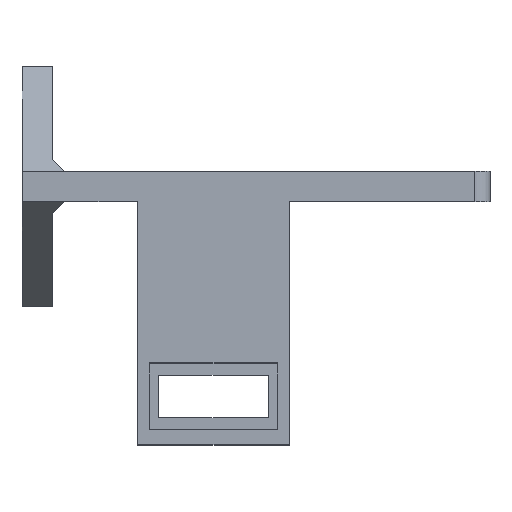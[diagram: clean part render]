
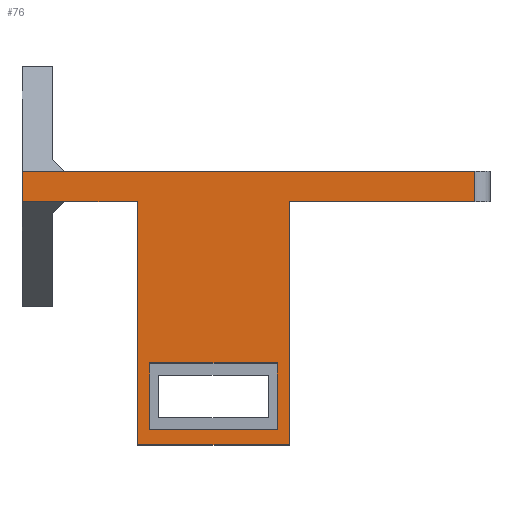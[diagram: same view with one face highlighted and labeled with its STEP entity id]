
A CAD part, top view. The second image highlights one B-rep face of the part: STEP entity #76.
In plain terms, the highlighted planar face has unit normal (0, 0, 1).
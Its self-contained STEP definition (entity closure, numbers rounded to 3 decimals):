
#25 = EDGE_CURVE ( 'NONE', #2315, #881, #2194, .T. ) ;
#43 = ORIENTED_EDGE ( 'NONE', *, *, #2245, .T. ) ;
#47 = VERTEX_POINT ( 'NONE', #2394 ) ;
#76 = ADVANCED_FACE ( 'NONE', ( #527, #2157 ), #538, .F. ) ;
#111 = VERTEX_POINT ( 'NONE', #2207 ) ;
#127 = ORIENTED_EDGE ( 'NONE', *, *, #287, .T. ) ;
#161 = VERTEX_POINT ( 'NONE', #2449 ) ;
#177 = CARTESIAN_POINT ( 'NONE',  ( 12., -37.5, 15. ) ) ;
#190 = DIRECTION ( 'NONE',  ( 1., 0., 0. ) ) ;
#192 = EDGE_CURVE ( 'NONE', #2315, #578, #2003, .T. ) ;
#198 = ORIENTED_EDGE ( 'NONE', *, *, #784, .F. ) ;
#220 = VERTEX_POINT ( 'NONE', #1641 ) ;
#234 = DIRECTION ( 'NONE',  ( -1., 0., 0. ) ) ;
#257 = DIRECTION ( 'NONE',  ( -1., 0., 0. ) ) ;
#258 = LINE ( 'NONE', #1455, #857 ) ;
#276 = VECTOR ( 'NONE', #1689, 1000. ) ;
#279 = DIRECTION ( 'NONE',  ( 0., -1., 0. ) ) ;
#287 = EDGE_CURVE ( 'NONE', #47, #111, #258, .T. ) ;
#309 = LINE ( 'NONE', #2526, #2431 ) ;
#328 = VERTEX_POINT ( 'NONE', #2544 ) ;
#339 = CARTESIAN_POINT ( 'NONE',  ( 65.481, 5., 15. ) ) ;
#345 = ORIENTED_EDGE ( 'NONE', *, *, #1930, .F. ) ;
#355 = ORIENTED_EDGE ( 'NONE', *, *, #1243, .T. ) ;
#386 = EDGE_CURVE ( 'NONE', #2414, #161, #1301, .T. ) ;
#395 = AXIS2_PLACEMENT_3D ( 'NONE', #1949, #2168, #1147 ) ;
#397 = ORIENTED_EDGE ( 'NONE', *, *, #2210, .T. ) ;
#435 = VECTOR ( 'NONE', #279, 1000. ) ;
#472 = VERTEX_POINT ( 'NONE', #1724 ) ;
#480 = CARTESIAN_POINT ( 'NONE',  ( -2., 0., 15. ) ) ;
#527 = FACE_OUTER_BOUND ( 'NONE', #2333, .T. ) ;
#538 = PLANE ( 'NONE',  #395 ) ;
#551 = VERTEX_POINT ( 'NONE', #1620 ) ;
#558 = DIRECTION ( 'NONE',  ( 0., 1., 0. ) ) ;
#578 = VERTEX_POINT ( 'NONE', #2035 ) ;
#592 = CARTESIAN_POINT ( 'NONE',  ( 65.481, 0., 15. ) ) ;
#601 = CARTESIAN_POINT ( 'NONE',  ( 65.481, 5., 15. ) ) ;
#623 = CARTESIAN_POINT ( 'NONE',  ( 10., 0., 15. ) ) ;
#648 = LINE ( 'NONE', #1874, #1821 ) ;
#653 = ORIENTED_EDGE ( 'NONE', *, *, #2225, .T. ) ;
#732 = VECTOR ( 'NONE', #234, 1000. ) ;
#784 = EDGE_CURVE ( 'NONE', #328, #551, #2334, .T. ) ;
#788 = ORIENTED_EDGE ( 'NONE', *, *, #1060, .T. ) ;
#800 = VERTEX_POINT ( 'NONE', #2161 ) ;
#807 = LINE ( 'NONE', #2266, #2557 ) ;
#857 = VECTOR ( 'NONE', #1665, 1000. ) ;
#881 = VERTEX_POINT ( 'NONE', #592 ) ;
#895 = ORIENTED_EDGE ( 'NONE', *, *, #2374, .F. ) ;
#930 = VECTOR ( 'NONE', #558, 1000. ) ;
#1022 = LINE ( 'NONE', #623, #1717 ) ;
#1058 = DIRECTION ( 'NONE',  ( -1., 0., 0. ) ) ;
#1060 = EDGE_CURVE ( 'NONE', #472, #47, #1989, .T. ) ;
#1073 = VECTOR ( 'NONE', #1122, 1000. ) ;
#1122 = DIRECTION ( 'NONE',  ( 0., -1., 0. ) ) ;
#1147 = DIRECTION ( 'NONE',  ( 0., -1., 0. ) ) ;
#1171 = CARTESIAN_POINT ( 'NONE',  ( 10., -40., 15. ) ) ;
#1243 = EDGE_CURVE ( 'NONE', #220, #1391, #1022, .T. ) ;
#1261 = LINE ( 'NONE', #2080, #2042 ) ;
#1275 = LINE ( 'NONE', #480, #276 ) ;
#1301 = LINE ( 'NONE', #2102, #435 ) ;
#1339 = EDGE_LOOP ( 'NONE', ( #788, #127, #43, #397 ) ) ;
#1354 = CARTESIAN_POINT ( 'NONE',  ( 10., -40., 15. ) ) ;
#1378 = EDGE_CURVE ( 'NONE', #800, #161, #1275, .T. ) ;
#1381 = VERTEX_POINT ( 'NONE', #2307 ) ;
#1391 = VERTEX_POINT ( 'NONE', #1354 ) ;
#1455 = CARTESIAN_POINT ( 'NONE',  ( 33., -26.5, 15. ) ) ;
#1516 = ORIENTED_EDGE ( 'NONE', *, *, #1378, .F. ) ;
#1560 = ORIENTED_EDGE ( 'NONE', *, *, #386, .T. ) ;
#1569 = CARTESIAN_POINT ( 'NONE',  ( 12., -26.5, 15. ) ) ;
#1586 = VECTOR ( 'NONE', #1784, 1000. ) ;
#1620 = CARTESIAN_POINT ( 'NONE',  ( 35., -40., 15. ) ) ;
#1621 = DIRECTION ( 'NONE',  ( -1., 0., 0. ) ) ;
#1629 = ORIENTED_EDGE ( 'NONE', *, *, #192, .T. ) ;
#1641 = CARTESIAN_POINT ( 'NONE',  ( 10., 0., 15. ) ) ;
#1665 = DIRECTION ( 'NONE',  ( 0., -1., 0. ) ) ;
#1689 = DIRECTION ( 'NONE',  ( -1., 0., 0. ) ) ;
#1717 = VECTOR ( 'NONE', #1835, 1000. ) ;
#1724 = CARTESIAN_POINT ( 'NONE',  ( 12., -26.5, 15. ) ) ;
#1729 = DIRECTION ( 'NONE',  ( 1., 0., 0. ) ) ;
#1784 = DIRECTION ( 'NONE',  ( 1., 0., 0. ) ) ;
#1808 = LINE ( 'NONE', #177, #930 ) ;
#1819 = CARTESIAN_POINT ( 'NONE',  ( 65.481, 5., 15. ) ) ;
#1821 = VECTOR ( 'NONE', #1058, 1000. ) ;
#1835 = DIRECTION ( 'NONE',  ( 0., -1., 0. ) ) ;
#1874 = CARTESIAN_POINT ( 'NONE',  ( 10., 0., 15. ) ) ;
#1930 = EDGE_CURVE ( 'NONE', #881, #328, #1261, .T. ) ;
#1941 = DIRECTION ( 'NONE',  ( 0., -1., 0. ) ) ;
#1949 = CARTESIAN_POINT ( 'NONE',  ( 67.981, 0., 15. ) ) ;
#1989 = LINE ( 'NONE', #1569, #1586 ) ;
#2000 = VECTOR ( 'NONE', #190, 1000. ) ;
#2003 = LINE ( 'NONE', #601, #732 ) ;
#2011 = EDGE_CURVE ( 'NONE', #2414, #578, #309, .T. ) ;
#2035 = CARTESIAN_POINT ( 'NONE',  ( -2., 5., 15. ) ) ;
#2042 = VECTOR ( 'NONE', #257, 1000. ) ;
#2080 = CARTESIAN_POINT ( 'NONE',  ( 65.481, 0., 15. ) ) ;
#2090 = CARTESIAN_POINT ( 'NONE',  ( -9., 5., 15. ) ) ;
#2102 = CARTESIAN_POINT ( 'NONE',  ( -9., 5., 15. ) ) ;
#2136 = CARTESIAN_POINT ( 'NONE',  ( 35., -22.08, 15. ) ) ;
#2147 = VECTOR ( 'NONE', #1941, 1000. ) ;
#2157 = FACE_BOUND ( 'NONE', #1339, .T. ) ;
#2161 = CARTESIAN_POINT ( 'NONE',  ( -2., 0., 15. ) ) ;
#2168 = DIRECTION ( 'NONE',  ( 0., 0., -1. ) ) ;
#2191 = LINE ( 'NONE', #1171, #2000 ) ;
#2194 = LINE ( 'NONE', #339, #1073 ) ;
#2207 = CARTESIAN_POINT ( 'NONE',  ( 33., -37.5, 15. ) ) ;
#2210 = EDGE_CURVE ( 'NONE', #1381, #472, #1808, .T. ) ;
#2214 = ORIENTED_EDGE ( 'NONE', *, *, #2011, .F. ) ;
#2225 = EDGE_CURVE ( 'NONE', #1391, #551, #2191, .T. ) ;
#2245 = EDGE_CURVE ( 'NONE', #111, #1381, #807, .T. ) ;
#2266 = CARTESIAN_POINT ( 'NONE',  ( 33., -37.5, 15. ) ) ;
#2307 = CARTESIAN_POINT ( 'NONE',  ( 12., -37.5, 15. ) ) ;
#2315 = VERTEX_POINT ( 'NONE', #1819 ) ;
#2333 = EDGE_LOOP ( 'NONE', ( #355, #653, #198, #345, #2384, #1629, #2214, #1560, #1516, #895 ) ) ;
#2334 = LINE ( 'NONE', #2136, #2147 ) ;
#2374 = EDGE_CURVE ( 'NONE', #220, #800, #648, .T. ) ;
#2384 = ORIENTED_EDGE ( 'NONE', *, *, #25, .F. ) ;
#2394 = CARTESIAN_POINT ( 'NONE',  ( 33., -26.5, 15. ) ) ;
#2414 = VERTEX_POINT ( 'NONE', #2090 ) ;
#2431 = VECTOR ( 'NONE', #1729, 1000. ) ;
#2449 = CARTESIAN_POINT ( 'NONE',  ( -9., 0., 15. ) ) ;
#2526 = CARTESIAN_POINT ( 'NONE',  ( -9., 5., 15. ) ) ;
#2544 = CARTESIAN_POINT ( 'NONE',  ( 35., 0., 15. ) ) ;
#2557 = VECTOR ( 'NONE', #1621, 1000. ) ;
